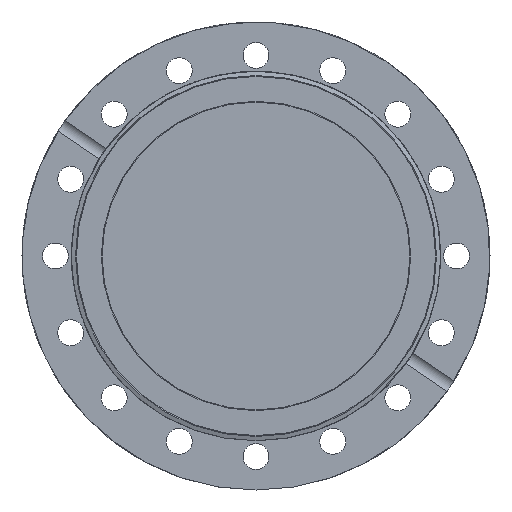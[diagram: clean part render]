
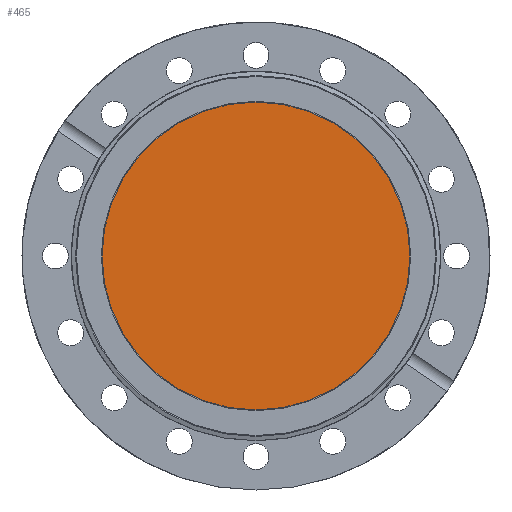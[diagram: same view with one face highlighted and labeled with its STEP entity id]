
A CAD part, left-side view. The second image highlights one B-rep face of the part: STEP entity #465.
In plain terms, the highlighted planar face has unit normal (-1, 0, 0).
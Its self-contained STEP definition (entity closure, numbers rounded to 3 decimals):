
#465 = ADVANCED_FACE( '', ( #1013 ), #1014, .F. );
#1013 = FACE_OUTER_BOUND( '', #1530, .T. );
#1014 = PLANE( '', #1531 );
#1530 = EDGE_LOOP( '', ( #2265 ) );
#1531 = AXIS2_PLACEMENT_3D( '', #2266, #2267, #2268 );
#2265 = ORIENTED_EDGE( '', *, *, #2333, .T. );
#2266 = CARTESIAN_POINT( '', ( 0., 0., 60. ) );
#2267 = DIRECTION( '', ( 1., 0., 0. ) );
#2268 = DIRECTION( '', ( 0., 0., -1. ) );
#2333 = EDGE_CURVE( '', #2620, #2620, #2621, .T. );
#2620 = VERTEX_POINT( '', #3031 );
#2621 = CIRCLE( '', #3032, 60. );
#3031 = CARTESIAN_POINT( '', ( 0., 0., 60. ) );
#3032 = AXIS2_PLACEMENT_3D( '', #3594, #3595, #3596 );
#3594 = CARTESIAN_POINT( '', ( 0., 0., 0. ) );
#3595 = DIRECTION( '', ( -1., 0., 0. ) );
#3596 = DIRECTION( '', ( 0., 0., 1. ) );
